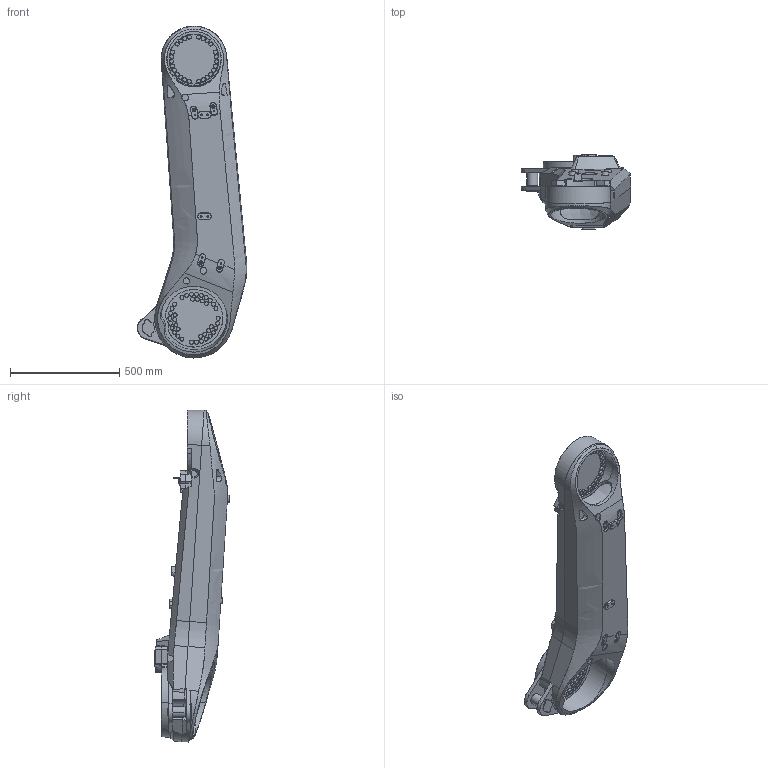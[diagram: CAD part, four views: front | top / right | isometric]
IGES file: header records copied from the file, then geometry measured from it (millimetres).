
Start section: SolidWorks IGES file using analytic representation for surfaces
Global section: file name: C:\DATA\SAP_DOC\LW\IRB 6720\IRB6720-LID-MH_215kg-265_OC_01_SW_J\export\IRB6720-LID-MH_215kg-265_OC_01_IGES_J\IRB6720-LID_215kg-265_OC_00_LINK02_CAD.igs; native system: SolidWorks 2024; preprocessor: SolidWorks 2024; author: SEJOVAS3; date: 260526.094253; units: millimetre
Bounding box: 500.83 x 342 x 1517.74 mm (x, y, z)
Surface area: 1926612.1 mm2 (no closed solid volume)
Topology: 0 solids, 0 shells, 767 faces, 17312 edges, 17278 vertices
Faces by surface type: bspline 435, revolution 332
